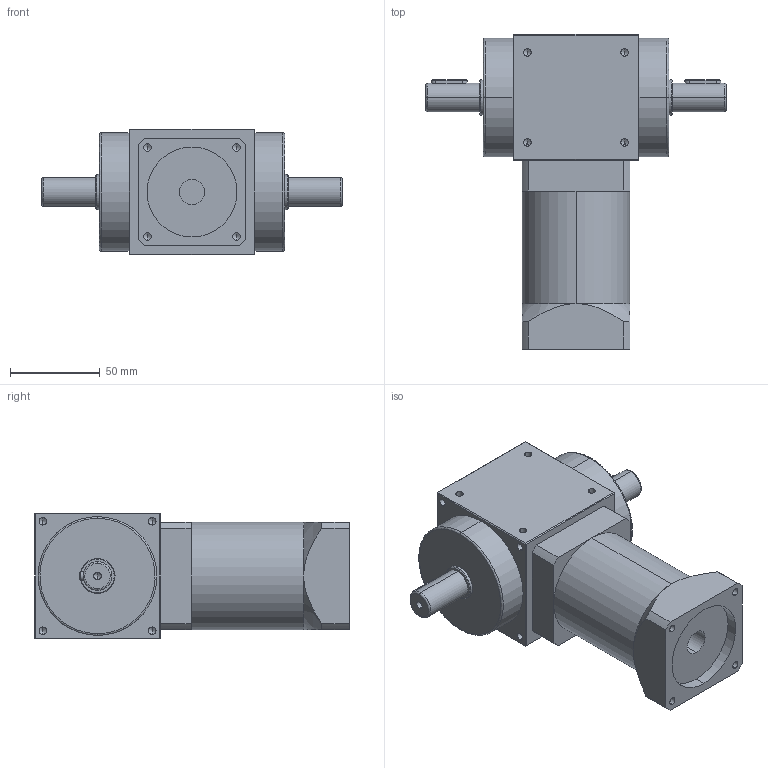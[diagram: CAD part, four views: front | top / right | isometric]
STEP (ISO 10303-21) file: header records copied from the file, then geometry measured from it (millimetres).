
FILE_DESCRIPTION (( 'STEP AP214' ), '1' );
FILE_NAME ('RXW070A-L1-2P-400W.STEP', '2020-12-04T02:18:43', ( '微软用户' ), ( '微软中国' ), 'SwSTEP 2.0', 'SolidWorks 2014', '' );
FILE_SCHEMA (( 'AUTOMOTIVE_DESIGN' ));
Length unit declared in the file: millimetre
Products named in the file (2): RXW070A-L1-2P-400W
Bounding box: 167 x 175 x 70 mm (x, y, z)
Volume: 771070.5 mm3; surface area: 75350.7 mm2
Topology: 2 solids, 2 shells, 231 faces, 540 edges, 290 vertices
Faces by surface type: cylinder 100, cone 64, plane 59, bspline 8
Entity records: 8414 total; most frequent: CARTESIAN_POINT 1471, DIRECTION 1070, ORIENTED_EDGE 976, EDGE_CURVE 488, AXIS2_PLACEMENT_3D 409, VERTEX_POINT 290, EDGE_LOOP 268, VECTOR 252
